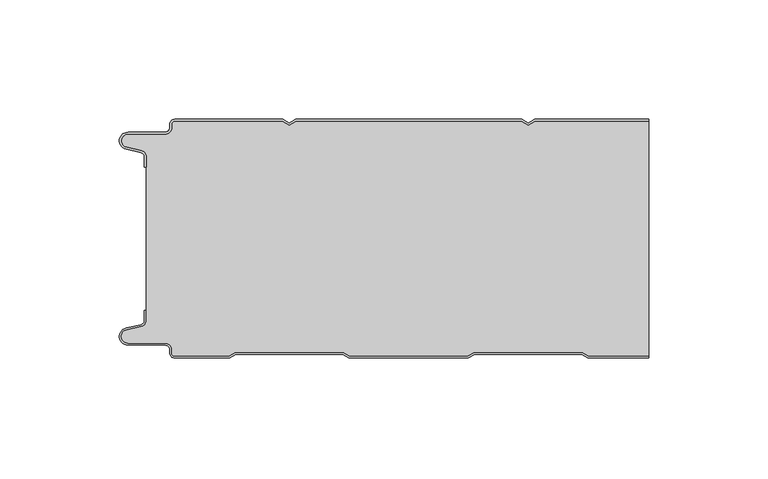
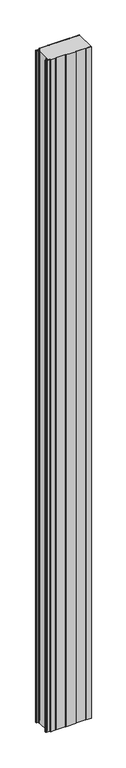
"""IFC4 building model written with IfcOpenShell, lengths in millimetres: plate geometry, PMH_Curtain-PaneL-Standard : ACH_PMH_Stone-wool-Panel_100M."""

from ifc_helpers import new_model, si_unit, point, frame_2d, origin, origin_with_axes, place, context, project, spatial, polyline, circle_curve, trimmed, segment, composite_curve, outline, extrude, source, transform, mapped, element, save


def plate_eed5d6d7(model_context):
    return source(origin(), model_context, "Body", "SweptSolid", [
        extrude(outline(composite_curve([segment(trimmed(circle_curve(frame_2d((-102.0, -15.878557)), 2.0), [point((-100.0, -15.878557))], [point((-101.5500978, -13.9298169))], True, "CARTESIAN"), True, "CONTINUOUS"), segment(polyline([(-101.5500978, -13.9298169), (-107.7098239, -12.507732)]), True, "CONTINUOUS"), segment(trimmed(circle_curve(frame_2d((-106.9, -9.0)), 3.6), [point((-107.7098239, -12.507732))], [point((-106.9, -5.4))], False, "CARTESIAN"), True, "CONTINUOUS"), segment(polyline([(-106.9, -5.4), (-91.4, -5.4)]), True, "CONTINUOUS"), segment(trimmed(circle_curve(frame_2d((-91.4, -3.4)), 2.0), [point((-91.4, -5.4))], [point((-89.4, -3.4))], True, "CARTESIAN"), True, "CONTINUOUS"), segment(polyline([(-89.4, -3.4), (-89.4, -2.0)]), True, "CONTINUOUS"), segment(trimmed(circle_curve(frame_2d((-87.4, -2.0)), 2.0), [point((-89.4, -2.0))], [point((-87.4, 0.0))], False, "CARTESIAN"), True, "CONTINUOUS"), segment(polyline([(-87.4, 0.0), (-42.0999995, 0.0), (-39.4, -1.5588455), (-36.7000005, 0.0), (57.9000005, 0.0), (60.6, -1.5588455), (63.2999995, 0.0), (111.0, 0.0), (111.0, -0.8), (63.5143588, -0.8), (60.6, -2.482606), (57.6856412, -0.8), (-36.4856412, -0.8), (-39.4, -2.482606), (-42.3143588, -0.8), (-87.4, -0.8)]), True, "CONTINUOUS"), segment(trimmed(circle_curve(frame_2d((-87.4, -2.0)), 1.2), [point((-87.4, -0.8))], [point((-88.6, -2.0))], True, "CARTESIAN"), True, "CONTINUOUS"), segment(polyline([(-88.6, -2.0), (-88.6, -3.4)]), True, "CONTINUOUS"), segment(trimmed(circle_curve(frame_2d((-91.4, -3.4)), 2.8), [point((-88.6, -3.4))], [point((-91.4, -6.2))], False, "CARTESIAN"), True, "CONTINUOUS"), segment(polyline([(-91.4, -6.2), (-106.9, -6.2)]), True, "CONTINUOUS"), segment(trimmed(circle_curve(frame_2d((-106.9, -9.0)), 2.8), [point((-106.9, -6.2))], [point((-107.529863, -11.7282362))], True, "CARTESIAN"), True, "CONTINUOUS"), segment(polyline([(-107.529863, -11.7282362), (-101.370137, -13.150321)]), True, "CONTINUOUS"), segment(trimmed(circle_curve(frame_2d((-102.0, -15.878557)), 2.8), [point((-101.370137, -13.150321))], [point((-99.2, -15.878557))], False, "CARTESIAN"), True, "CONTINUOUS"), segment(polyline([(-99.2, -15.878557), (-99.2, -20.0), (-100.0, -20.0), (-100.0, -15.878557)]), True, "CONTINUOUS")], self_intersect=False)), origin_with_axes(), (0.0, 0.0, 1.0), 3500.0),
        extrude(outline(composite_curve([segment(polyline([(-99.2, -84.121443), (-99.2, -15.8785573)]), True, "CONTINUOUS"), segment(trimmed(circle_curve(frame_2d((-102.0, -15.8785573)), 2.8), [point((-99.2, -15.8785573))], [point((-101.370137, -13.1503212))], True, "CARTESIAN"), True, "CONTINUOUS"), segment(polyline([(-101.370137, -13.1503212), (-107.5298631, -11.7282362)]), True, "CONTINUOUS"), segment(trimmed(circle_curve(frame_2d((-106.9, -9.0)), 2.8), [point((-107.5298631, -11.7282362))], [point((-106.9, -6.2))], False, "CARTESIAN"), True, "CONTINUOUS"), segment(polyline([(-106.9, -6.2), (-91.4000001, -6.2)]), True, "CONTINUOUS"), segment(trimmed(circle_curve(frame_2d((-91.4000001, -3.4)), 2.8), [point((-91.4000001, -6.2))], [point((-88.6000001, -3.4))], True, "CARTESIAN"), True, "CONTINUOUS"), segment(polyline([(-88.6000001, -3.4), (-88.6000001, -2.0)]), True, "CONTINUOUS"), segment(trimmed(circle_curve(frame_2d((-87.4000001, -2.0)), 1.2), [point((-88.6000001, -2.0))], [point((-87.4000001, -0.8))], False, "CARTESIAN"), True, "CONTINUOUS"), segment(polyline([(-87.4000001, -0.8), (-42.3143589, -0.8), (-39.4000001, -2.482606), (-36.4856412, -0.8), (57.6856411, -0.8), (60.5999999, -2.482606), (63.5143588, -0.8), (111.0, -0.8), (111.0, -99.2), (85.8105122, -99.2), (83.2124346, -97.7), (37.9837184, -97.7), (35.3856408, -99.2), (-14.1894878, -99.2), (-16.7875654, -97.7), (-62.0162816, -97.7), (-64.6143592, -99.2), (-87.4, -99.2)]), True, "CONTINUOUS"), segment(trimmed(circle_curve(frame_2d((-87.4, -98.0)), 1.2), [point((-87.4, -99.2))], [point((-88.6, -98.0))], False, "CARTESIAN"), True, "CONTINUOUS"), segment(polyline([(-88.6, -98.0), (-88.6, -96.5999998)]), True, "CONTINUOUS"), segment(trimmed(circle_curve(frame_2d((-91.4, -96.5999998)), 2.8), [point((-88.6, -96.5999998))], [point((-91.4, -93.7999998))], True, "CARTESIAN"), True, "CONTINUOUS"), segment(polyline([(-91.4, -93.7999998), (-106.9, -93.7999998)]), True, "CONTINUOUS"), segment(trimmed(circle_curve(frame_2d((-106.9, -91.0)), 2.7999998), [point((-106.9, -93.7999998))], [point((-107.529863, -88.271764))], False, "CARTESIAN"), True, "CONTINUOUS"), segment(polyline([(-107.529863, -88.271764), (-101.370137, -86.8496792)]), True, "CONTINUOUS"), segment(trimmed(circle_curve(frame_2d((-102.0, -84.121443)), 2.8), [point((-101.370137, -86.8496792))], [point((-99.2, -84.121443))], True, "CARTESIAN"), True, "CONTINUOUS")], self_intersect=False)), origin_with_axes(), (0.0, 0.0, 1.0), 3500.0),
        extrude(outline(composite_curve([segment(trimmed(circle_curve(frame_2d((-87.4, -98.0)), 2.0), [point((-87.4, -100.0))], [point((-89.4, -98.0))], False, "CARTESIAN"), True, "CONTINUOUS"), segment(polyline([(-89.4, -98.0), (-89.4, -96.6)]), True, "CONTINUOUS"), segment(trimmed(circle_curve(frame_2d((-91.4, -96.6)), 2.0), [point((-89.4, -96.6))], [point((-91.4, -94.6))], True, "CARTESIAN"), True, "CONTINUOUS"), segment(polyline([(-91.4, -94.6), (-106.9, -94.6)]), True, "CONTINUOUS"), segment(trimmed(circle_curve(frame_2d((-106.9, -91.0)), 3.6), [point((-106.9, -94.6))], [point((-107.7098239, -87.4922678))], False, "CARTESIAN"), True, "CONTINUOUS"), segment(polyline([(-107.7098239, -87.4922678), (-101.5500979, -86.070183)]), True, "CONTINUOUS"), segment(trimmed(circle_curve(frame_2d((-102.0, -84.121443)), 2.0), [point((-101.5500979, -86.070183))], [point((-100.0, -84.121443))], True, "CARTESIAN"), True, "CONTINUOUS"), segment(polyline([(-100.0, -84.121443), (-100.0, -80.0), (-99.2, -80.0), (-99.2, -84.121443)]), True, "CONTINUOUS"), segment(trimmed(circle_curve(frame_2d((-102.0, -84.121443)), 2.8), [point((-99.2, -84.121443))], [point((-101.370137, -86.8496792))], False, "CARTESIAN"), True, "CONTINUOUS"), segment(polyline([(-101.370137, -86.8496792), (-107.529863, -88.271764)]), True, "CONTINUOUS"), segment(trimmed(circle_curve(frame_2d((-106.9, -91.0)), 2.8), [point((-107.529863, -88.271764))], [point((-106.9, -93.8))], True, "CARTESIAN"), True, "CONTINUOUS"), segment(polyline([(-106.9, -93.8), (-91.4, -93.8)]), True, "CONTINUOUS"), segment(trimmed(circle_curve(frame_2d((-91.4, -96.6)), 2.8), [point((-91.4, -93.8))], [point((-88.6, -96.6))], False, "CARTESIAN"), True, "CONTINUOUS"), segment(polyline([(-88.6, -96.6), (-88.6, -98.0)]), True, "CONTINUOUS"), segment(trimmed(circle_curve(frame_2d((-87.4, -98.0)), 1.2), [point((-88.6, -98.0))], [point((-87.4, -99.2))], True, "CARTESIAN"), True, "CONTINUOUS"), segment(polyline([(-87.4, -99.2), (-64.6143592, -99.2), (-62.0162816, -97.7), (-16.7875654, -97.7), (-14.1894878, -99.2), (35.3856408, -99.2), (37.9837184, -97.7), (83.2124346, -97.7), (85.8105122, -99.2), (111.0, -99.2), (111.0, -100.0), (85.5961529, -100.0), (82.9980753, -98.5), (38.1980777, -98.5), (35.6000001, -100.0), (-14.4038471, -100.0), (-17.0019247, -98.5), (-61.8019223, -98.5), (-64.3999999, -100.0), (-87.4, -100.0)]), True, "CONTINUOUS")], self_intersect=False)), origin_with_axes(), (0.0, 0.0, 1.0), 3500.0),
    ])


if __name__ == "__main__":
    model = new_model("IFC4")
    model_context = context("Model", 3, world=origin())
    ifc_project = project(units=[si_unit("LENGTHUNIT", "METRE", prefix="MILLI")], contexts=[model_context])
    site = spatial("IfcSite", under=ifc_project)
    building = spatial("IfcBuilding", under=site)
    placement = place(None, origin())
    plate_shape = plate_eed5d6d7(model_context)
    element("IfcPlate", 1, ObjectType="PMH_Curtain-PaneL-Standard : ACH_PMH_Stone-wool-Panel_100M", at=placement, inside=building, context=model_context, shape_type="MappedRepresentation", body=[
        mapped(plate_shape, transform((0.0, 0.0, 0.0), x_axis=(1.0, 0.0, 0.0), y_axis=(0.0, 1.0, 0.0), z_axis=(0.0, 0.0, 1.0))),
    ])
    save(model, "model.ifc")
